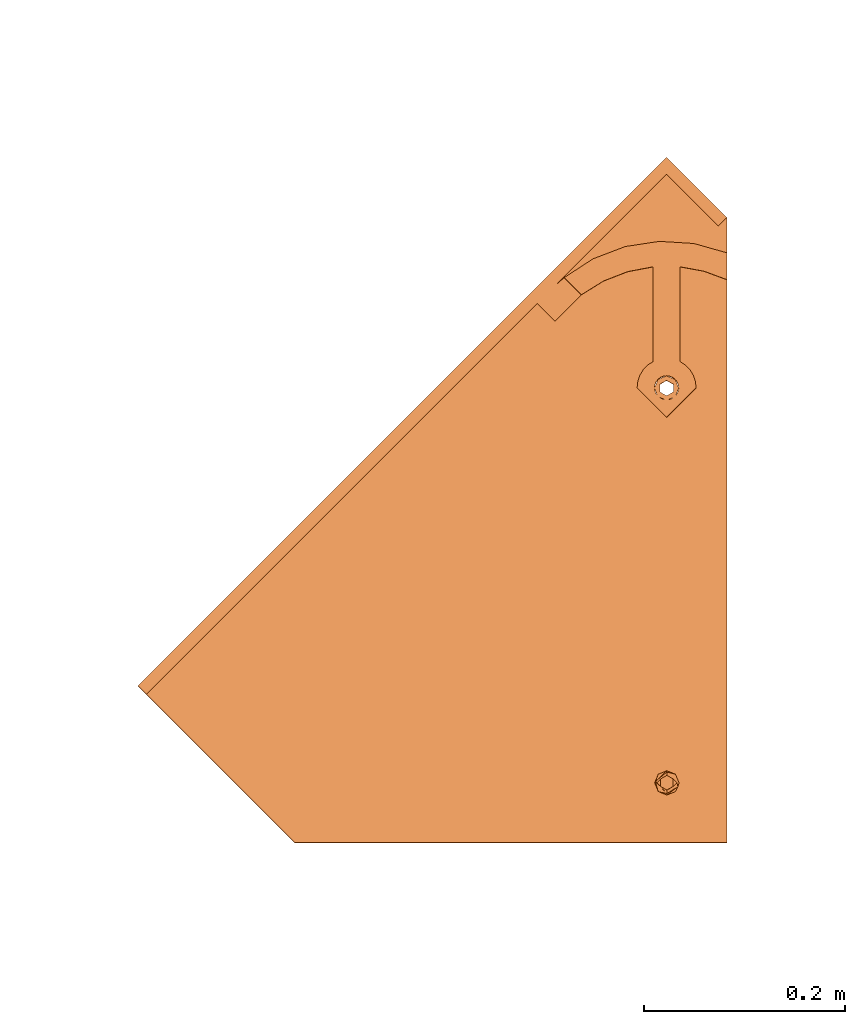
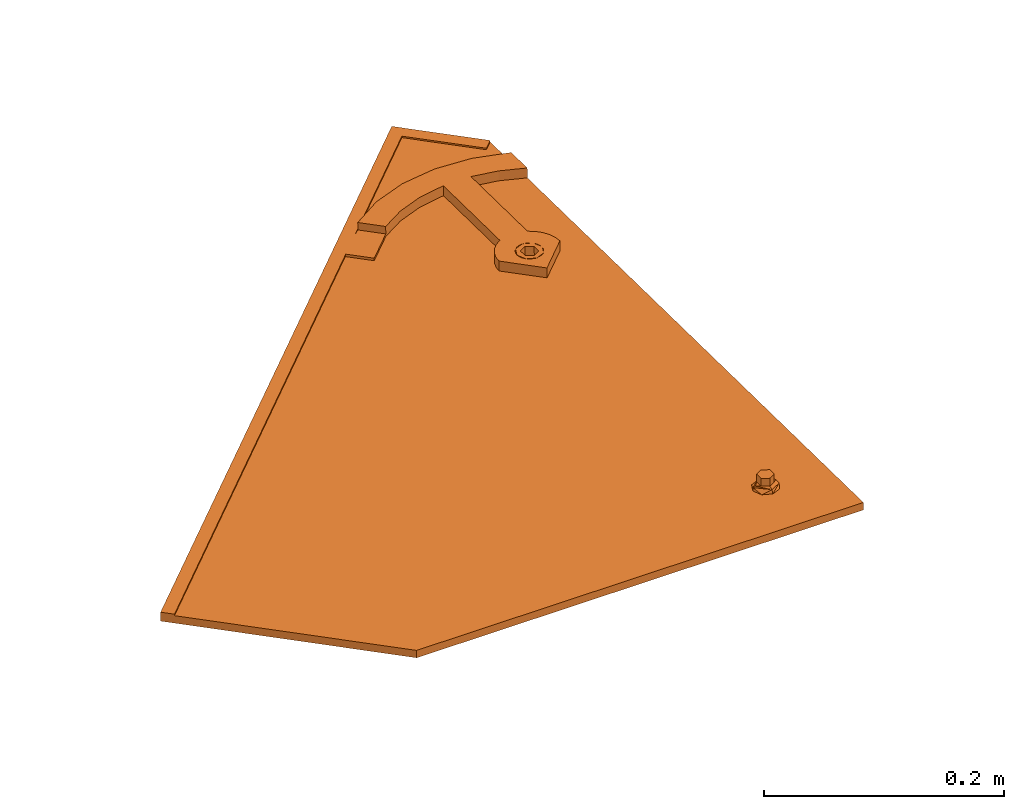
# One storey, part 123 of 133: 1 proxy.
"""IFC2X3 building model written with IfcOpenShell, lengths in millimetres."""

from ifc_helpers import new_model, entity, si_unit, converted_unit, derived_unit, direction, frame, origin, place, context, subcontext, project, spatial, faceted_brep, source, transform, mapped, material, material_list, type_object, type_shapes, element, save


model = new_model("IFC2X3")

# Units and contexts
model_context = context("Model", 3, precision=0.01, world=origin(), true_north=direction((6.12303176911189e-17, 1.0)))
body_context = subcontext(model_context, "Body", "Model", "MODEL_VIEW")
ifc_project = project(units=[si_unit("LENGTHUNIT", "METRE", prefix="MILLI"), si_unit("AREAUNIT", "SQUARE_METRE"), si_unit("VOLUMEUNIT", "CUBIC_METRE"), converted_unit("PLANEANGLEUNIT", "DEGREE", entity("IfcRatioMeasure", 0.0174532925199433), si_unit("PLANEANGLEUNIT", "RADIAN"), dimensions=[0, 0, 0, 0, 0, 0, 0]), si_unit("MASSUNIT", "GRAM", prefix="KILO"), derived_unit("MASSDENSITYUNIT", [(si_unit("MASSUNIT", "GRAM", prefix="KILO"), 1), (si_unit("LENGTHUNIT", "METRE"), -3)]), si_unit("TIMEUNIT", "SECOND"), si_unit("FREQUENCYUNIT", "HERTZ"), si_unit("THERMODYNAMICTEMPERATUREUNIT", "DEGREE_CELSIUS"), derived_unit("THERMALTRANSMITTANCEUNIT", [(si_unit("MASSUNIT", "GRAM", prefix="KILO"), 1), (si_unit("THERMODYNAMICTEMPERATUREUNIT", "KELVIN"), -1), (si_unit("TIMEUNIT", "SECOND"), -3)]), derived_unit("VOLUMETRICFLOWRATEUNIT", [(si_unit("LENGTHUNIT", "METRE"), 3), (si_unit("TIMEUNIT", "SECOND"), -1)]), si_unit("ELECTRICCURRENTUNIT", "AMPERE"), si_unit("ELECTRICVOLTAGEUNIT", "VOLT"), si_unit("POWERUNIT", "WATT"), si_unit("FORCEUNIT", "NEWTON", prefix="KILO"), si_unit("ILLUMINANCEUNIT", "LUX"), si_unit("LUMINOUSFLUXUNIT", "LUMEN"), si_unit("LUMINOUSINTENSITYUNIT", "CANDELA"), derived_unit("USERDEFINED", [(si_unit("MASSUNIT", "GRAM", prefix="KILO"), -1), (si_unit("LENGTHUNIT", "METRE"), -2), (si_unit("TIMEUNIT", "SECOND"), 3), (si_unit("LUMINOUSFLUXUNIT", "LUMEN"), 1)]), derived_unit("LINEARVELOCITYUNIT", [(si_unit("LENGTHUNIT", "METRE"), 1), (si_unit("TIMEUNIT", "SECOND"), -1)]), si_unit("PRESSUREUNIT", "PASCAL"), derived_unit("USERDEFINED", [(si_unit("LENGTHUNIT", "METRE"), -2), (si_unit("MASSUNIT", "GRAM", prefix="KILO"), 1), (si_unit("TIMEUNIT", "SECOND"), -2)])], contexts=[model_context])

# Site, building, storey
site_placement = place(None, origin())
site = spatial("IfcSite", under=ifc_project, at=site_placement, Name="Default", CompositionType="ELEMENT")
building_placement = place(site_placement, origin())
building = spatial("IfcBuilding", under=site, at=building_placement, CompositionType="ELEMENT")
storey_placement = place(building_placement, origin())
storey = spatial("IfcBuildingStorey", under=building, at=storey_placement, Name="Level 1", CompositionType="ELEMENT", Elevation=0.0)

# Proxy
ifc_material_1 = material(Name="Rubber - Sunstyle - Black")
ifc_material_2 = material(Name="Glass - Sunstyle - Tainted Black")
ifc_material_list_1 = material_list([ifc_material_1, ifc_material_2])
ifc_material_list_2 = material_list([ifc_material_1, ifc_material_2])
building_element_proxy_type = type_object("IfcBuildingElementProxyType", Name="Corner Bottom Big Right - Black", PredefinedType="NOTDEFINED", material=ifc_material_list_2)
shared_shape = source(origin(), body_context, "Body", "Brep", [
    faceted_brep([(0.270009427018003, -2.025866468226, -4.01619789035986), (-5.50419340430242, -5.35913660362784, -3.96037390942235), (-5.50419340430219, -4.99082751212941, 18.0314954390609), (0.270009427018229, -1.65755737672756, 17.9756714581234), (-5.50419340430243, -12.0256768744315, -3.84872594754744), (-5.5041934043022, -11.6573677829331, 18.1431434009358), (0.270009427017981, -15.3589470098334, -3.79290196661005), (0.270009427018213, -14.990637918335, 18.1989673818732), (6.04421225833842, -12.0256768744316, -3.84872594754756), (6.04421225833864, -11.6573677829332, 18.1431434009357), (6.04421225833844, -5.35913660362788, -3.96037390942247), (6.04421225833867, -4.99082751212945, 18.0314954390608), (-8.3336947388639, -16.9265954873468, 18.2313898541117), (0.27000942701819, -20.4898667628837, 18.2910657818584), (-11.8974656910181, -8.32409764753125, 18.0873194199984), (-8.33369473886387, 0.278400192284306, 17.9432489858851), (0.270009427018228, 3.84167146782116, 17.8835730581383), (8.87371359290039, 0.278400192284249, 17.9432489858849), (12.4374845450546, -8.32409764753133, 18.0873194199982), (8.87371359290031, -16.9265954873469, 18.2313898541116), (-11.1602134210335, -6.95050198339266, 20.4858706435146), (-9.50050407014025, -8.25322861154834, 22.3189355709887), (0.270009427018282, -0.940007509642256, 22.9603444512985), (0.27000942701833, 0.300490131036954, 22.3799978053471), (0.270009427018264, 2.4580409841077, 21.3706227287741), (-6.05323627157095, -4.59022324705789, 23.0214764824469), (-6.05323627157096, -11.8906547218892, 23.1437405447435), (0.270009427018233, -18.990246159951, 21.7298281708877), (0.270009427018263, -15.5408704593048, 23.2048725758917), (11.2551842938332, -12.0411541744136, 20.3827540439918), (10.3938597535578, -8.25726753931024, 22.077768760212), (6.59325512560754, -4.59022324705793, 23.0214764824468), (6.5932551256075, -11.8906547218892, 23.1437405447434), (-6.05323627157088, -11.7566262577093, 31.1466287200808), (0.270009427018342, -15.4068419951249, 31.207760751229), (0.270009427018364, -8.10641052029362, 31.0854966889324), (-6.05323627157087, -4.456194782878, 31.0243646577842), (6.59325512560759, -11.7566262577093, 31.1466287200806), (6.59325512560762, -4.45619478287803, 31.024364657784), (0.270009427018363, -0.805979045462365, 30.9632326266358), (0.270009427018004, -8.69240673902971, -3.90454992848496)], [[[0, 1, 2, 3]], [[1, 4, 5, 2]], [[4, 6, 7, 5]], [[6, 8, 9, 7]], [[8, 10, 11, 9]], [[10, 0, 3, 11]], [[12, 7, 13]], [[7, 12, 5]], [[14, 5, 12]], [[5, 14, 2]], [[15, 2, 14]], [[3, 2, 15]], [[15, 16, 3]], [[16, 17, 3]], [[11, 3, 17]], [[11, 17, 18]], [[9, 11, 18]], [[18, 19, 9]], [[7, 9, 19]], [[19, 13, 7]], [[15, 20, 16]], [[21, 22, 23, 24]], [[22, 21, 25]], [[20, 14, 12]], [[15, 14, 20]], [[25, 21, 26]], [[20, 24, 16]], [[12, 13, 27]], [[12, 27, 20]], [[21, 28, 26]], [[21, 27, 28]], [[20, 21, 24]], [[20, 27, 21]], [[19, 29, 13]], [[30, 23, 31]], [[30, 28, 27]], [[24, 23, 30]], [[29, 27, 13]], [[19, 18, 29]], [[29, 30, 27]], [[29, 17, 24]], [[24, 17, 16]], [[31, 32, 30]], [[23, 22, 31]], [[28, 30, 32]], [[29, 24, 30]], [[29, 18, 17]], [[33, 34, 35]], [[35, 36, 33]], [[34, 37, 35]], [[38, 35, 37]], [[35, 38, 39]], [[35, 39, 36]], [[40, 6, 4]], [[4, 1, 40]], [[1, 0, 40]], [[40, 8, 6]], [[0, 10, 40]], [[8, 40, 10]], [[22, 25, 36, 39]], [[25, 26, 33, 36]], [[26, 28, 34, 33]], [[28, 32, 37, 34]], [[32, 31, 38, 37]], [[31, 22, 39, 38]]]),
    faceted_brep([(-518.247351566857, 79.9143812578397, 14.9652572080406), (-518.247351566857, 79.9394990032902, 16.4650468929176), (-526.732038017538, 88.4241854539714, 16.3229495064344), (-526.732038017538, 88.399067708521, 14.8231598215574), (-0.00032251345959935, 614.98308737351, 6.00418773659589), (60.1037538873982, 554.895864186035, 7.01049921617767), (51.6190674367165, 546.411177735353, 7.15259660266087), (-0.000322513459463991, 598.016093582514, 6.28834266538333), (-0.000322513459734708, 615.00820511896, 7.50397742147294), (-0.000322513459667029, 598.041211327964, 7.78813235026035), (51.6190674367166, 546.436295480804, 8.65238628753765), (60.1037538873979, 554.920981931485, 8.51028890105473)], [[[0, 1, 2, 3]], [[0, 3, 4, 5, 6, 7]], [[3, 2, 8, 4]], [[2, 1, 9, 10, 11, 8]], [[1, 0, 7, 9]], [[6, 5, 11, 10]], [[4, 8, 11, 5]], [[9, 7, 6, 10]]]),
    faceted_brep([(0.0, 372.774440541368, 20.3195200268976), (0.0, 377.273809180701, 20.2441667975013), (-8.60370416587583, 376.337711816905, 20.2598440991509), (8.60370416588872, 376.337711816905, 20.2598440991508), (6.64022859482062, 381.107009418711, 20.1799702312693), (12.1674751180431, 384.940209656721, 20.1157736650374), (6.64022859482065, 388.773409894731, 20.0515770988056), (8.6037041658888, 393.542707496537, 19.9717032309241), (0.0, 392.606610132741, 19.9873805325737), (0.0, 397.105978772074, 19.9120273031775), (-8.60370416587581, 393.542707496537, 19.9717032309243), (-6.64022859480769, 388.773409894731, 20.0515770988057), (-12.1674751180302, 384.940209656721, 20.1157736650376), (-6.6402285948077, 381.107009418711, 20.1799702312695), (-6.6402282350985, 388.505487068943, 4.05382046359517), (0.0, 392.338687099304, 3.98962390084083), (-6.64022823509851, 380.839087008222, 4.18221358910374), (0.0, 377.005886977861, 4.24641015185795), (6.64022823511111, 380.839087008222, 4.1822135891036), (6.64022823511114, 388.505487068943, 4.05382046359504), (-8.603704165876, 376.069789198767, 4.26208746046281), (0.0, 372.50651792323, 4.32176338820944), (-12.1674751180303, 384.672287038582, 4.11801702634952), (-8.60370416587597, 393.274784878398, 3.97394659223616), (0.0, 396.838056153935, 3.91427066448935), (8.60370416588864, 393.274784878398, 3.97394659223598), (12.1674751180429, 384.672287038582, 4.11801702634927), (8.60370416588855, 376.069789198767, 4.26208746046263)], [[[0, 1, 2]], [[1, 0, 3]], [[3, 4, 1]], [[4, 3, 5]], [[6, 4, 5]], [[5, 7, 6]], [[7, 8, 6]], [[8, 7, 9]], [[8, 9, 10]], [[10, 11, 8]], [[12, 11, 10]], [[2, 13, 12]], [[12, 13, 11]], [[13, 2, 1]], [[8, 11, 14, 15]], [[11, 13, 16, 14]], [[13, 1, 17, 16]], [[1, 4, 18, 17]], [[4, 6, 19, 18]], [[6, 8, 15, 19]], [[20, 17, 21]], [[17, 20, 16]], [[22, 16, 20]], [[14, 16, 22]], [[23, 14, 22]], [[15, 14, 23]], [[23, 24, 15]], [[24, 25, 15]], [[19, 15, 25]], [[19, 25, 26]], [[26, 18, 19]], [[26, 27, 18]], [[17, 18, 27]], [[27, 21, 17]], [[24, 23, 10, 9]], [[10, 23, 22, 12]], [[20, 21, 0, 2]], [[20, 2, 12, 22]], [[21, 27, 3, 0]], [[3, 27, 26, 5]], [[25, 24, 9, 7]], [[25, 7, 5, 26]]]),
    faceted_brep([(-10.3923048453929, 390.78484910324, 9.75895037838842), (-8.48528137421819, 393.269782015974, 9.7173339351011), (-0.00032251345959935, 614.983087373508, 6.0041877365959), (-11.5911099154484, 387.891083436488, 9.8074137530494), (-6.0, 395.176538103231, 9.68540051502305), (-3.10582854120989, 396.37517508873, 9.6653263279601), (60.1037538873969, 554.895864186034, 7.01049921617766), (0.0, 396.784007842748, 9.65847939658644), (3.1058285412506, 396.37517508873, 9.6653263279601), (6.0, 395.176538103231, 9.68540051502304), (8.48528137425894, 393.269782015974, 9.7173339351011), (10.3923048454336, 390.784849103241, 9.75895037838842), (11.5911099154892, 387.891083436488, 9.8074137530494), (12.0, 384.785690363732, 9.8594213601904), (11.5911099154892, 381.680297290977, 9.9114289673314), (60.103753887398, -67.933460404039, 17.4413406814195), (10.3923048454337, 378.786531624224, 9.95989234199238), (6.58173564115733, -3.94243384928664, 16.369650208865), (8.48528137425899, 376.301598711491, 10.0015087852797), (5.31038666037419, -2.28581190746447, 16.3419059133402), (6.0, 374.394842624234, 10.0334422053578), (3.65353241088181, -1.01464118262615, 16.3206169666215), (3.10582854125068, 373.196205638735, 10.0535163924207), (1.72408477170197, -0.215549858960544, 16.3072341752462), (0.0, 372.787372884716, 10.0603633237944), (-0.346467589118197, 0.0570053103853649, 16.3026695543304), (-2.41701994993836, -0.215549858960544, 16.3072341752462), (-3.10582854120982, 373.196205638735, 10.0535163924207), (-4.34646758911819, -1.01464118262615, 16.3206169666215), (-6.0, 374.394842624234, 10.0334422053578), (-6.00332183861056, -2.28581190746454, 16.3419059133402), (-8.48528137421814, 376.301598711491, 10.0015087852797), (-370.355661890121, -67.9334604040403, 17.4413406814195), (-10.3923048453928, 378.786531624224, 9.95989234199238), (-526.732038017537, 88.3990677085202, 14.8231598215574), (-11.5911099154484, 381.680297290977, 9.9114289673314), (-12.0, 384.785690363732, 9.8594213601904), (-7.27467081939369, -3.94243384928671, 16.369650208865), (-8.07387419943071, -5.87161096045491, 16.4019591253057), (-8.34646758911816, -7.94187300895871, 16.4366308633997), (-8.0738741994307, -10.0121350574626, 16.4713026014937), (-7.27467081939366, -11.9413121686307, 16.5036115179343), (-6.00332183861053, -13.5979341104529, 16.5313558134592), (-4.34646758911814, -14.8691048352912, 16.5526447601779), (-2.41701994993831, -15.6681961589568, 16.5660275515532), (7.38093902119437, -5.87161096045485, 16.4019591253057), (7.65353241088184, -7.94187300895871, 16.4366308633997), (7.38093902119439, -10.0121350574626, 16.4713026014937), (6.58173564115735, -11.9413121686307, 16.5036115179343), (5.31038666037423, -13.5979341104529, 16.5313558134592), (3.65353241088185, -14.8691048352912, 16.5526447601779), (1.72408477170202, -15.6681961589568, 16.5660275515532), (-0.346467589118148, -15.9407513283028, 16.570592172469), (-370.355661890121, -68.0590491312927, 9.94239225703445), (-8.0738741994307, -10.1377237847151, 8.97235417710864), (-7.27467081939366, -12.0669008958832, 9.00466309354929), (-8.34646758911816, -8.06746173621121, 8.93768243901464), (-6.00332183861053, -13.7235228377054, 9.03240738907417), (-4.34646758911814, -14.9946935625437, 9.05369633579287), (60.103753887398, -68.0590491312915, 9.94239225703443), (-8.07387419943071, -5.99719968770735, 8.90301070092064), (-7.27467081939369, -4.06802257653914, 8.87070178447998), (-6.00332183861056, -2.41140063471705, 8.8429574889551), (-8.48528137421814, 376.176009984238, 2.50256036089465), (-10.3923048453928, 378.660942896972, 2.46094391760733), (-526.732038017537, 88.2734789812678, 7.32421139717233), (-11.5911099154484, 381.554708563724, 2.41248054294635), (-12.0, 384.66010163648, 2.36047293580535), (-11.5911099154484, 387.765494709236, 2.30846532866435), (-0.00032251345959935, 614.857498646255, -1.49476068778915), (-10.3923048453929, 390.659260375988, 2.26000195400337), (-8.48528137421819, 393.144193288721, 2.21838551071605), (-6.0, 395.050949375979, 2.18645209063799), (-3.10582854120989, 396.249586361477, 2.16637790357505), (60.1037538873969, 554.770275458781, -0.488449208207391), (0.0, 396.658419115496, 2.15953097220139), (3.1058285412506, 396.249586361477, 2.16637790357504), (6.0, 395.050949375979, 2.18645209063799), (8.48528137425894, 393.144193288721, 2.21838551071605), (10.3923048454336, 390.659260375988, 2.26000195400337), (11.5911099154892, 387.765494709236, 2.30846532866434), (12.0, 384.66010163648, 2.36047293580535), (11.5911099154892, 381.554708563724, 2.41248054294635), (-2.41701994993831, -15.7937848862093, 9.06707912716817), (-0.346467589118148, -16.0663400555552, 9.07164374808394), (1.72408477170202, -15.7937848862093, 9.06707912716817), (3.65353241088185, -14.9946935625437, 9.05369633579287), (5.31038666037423, -13.7235228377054, 9.03240738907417), (6.58173564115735, -12.0669008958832, 9.00466309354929), (7.38093902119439, -10.1377237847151, 8.97235417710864), (7.65353241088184, -8.06746173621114, 8.93768243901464), (7.38093902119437, -5.99719968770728, 8.90301070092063), (6.58173564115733, -4.06802257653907, 8.87070178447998), (10.3923048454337, 378.660942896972, 2.46094391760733), (-6.0, 374.269253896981, 2.5344937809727), (-4.34646758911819, -1.14022990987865, 8.8216685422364), (-3.10582854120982, 373.070616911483, 2.55456796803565), (-2.41701994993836, -0.341138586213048, 8.8082857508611), (0.0, 372.661784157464, 2.56141489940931), (-0.346467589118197, -0.0685834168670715, 8.80372112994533), (1.72408477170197, -0.341138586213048, 8.8082857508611), (3.10582854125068, 373.070616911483, 2.55456796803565), (3.65353241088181, -1.14022990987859, 8.8216685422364), (6.0, 374.269253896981, 2.5344937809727), (5.31038666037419, -2.41140063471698, 8.8429574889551), (8.48528137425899, 376.176009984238, 2.50256036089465)], [[[0, 1, 2]], [[3, 0, 2]], [[4, 2, 1]], [[2, 4, 5]], [[6, 2, 5]], [[7, 6, 5]], [[7, 8, 6]], [[8, 9, 6]], [[10, 6, 9]], [[6, 10, 11]], [[6, 11, 12]], [[12, 13, 6]], [[13, 14, 6]], [[6, 14, 15]], [[14, 16, 15]], [[17, 15, 16]], [[18, 17, 16]], [[17, 18, 19]], [[18, 20, 19]], [[21, 19, 20]], [[20, 22, 21]], [[23, 21, 22]], [[24, 23, 22]], [[23, 24, 25]], [[26, 25, 24]], [[24, 27, 26]], [[26, 27, 28]], [[29, 28, 27]], [[28, 29, 30]], [[29, 31, 30]], [[32, 30, 31]], [[33, 32, 31]], [[33, 34, 32]], [[33, 35, 34]], [[35, 36, 34]], [[36, 3, 34]], [[3, 2, 34]], [[30, 32, 37]], [[37, 32, 38]], [[32, 39, 38]], [[39, 32, 40]], [[40, 32, 41]], [[42, 41, 32]], [[42, 32, 43]], [[43, 32, 15]], [[15, 44, 43]], [[17, 45, 15]], [[45, 46, 15]], [[47, 15, 46]], [[47, 48, 15]], [[49, 15, 48]], [[15, 49, 50]], [[50, 51, 15]], [[51, 52, 15]], [[52, 44, 15]], [[53, 54, 55]], [[54, 53, 56]], [[53, 55, 57]], [[57, 58, 53]], [[53, 58, 59]], [[60, 56, 53]], [[61, 60, 53]], [[61, 53, 62]], [[63, 62, 53]], [[64, 63, 53]], [[65, 64, 53]], [[65, 66, 64]], [[66, 65, 67]], [[67, 65, 68]], [[65, 69, 68]], [[70, 68, 69]], [[71, 70, 69]], [[72, 71, 69]], [[69, 73, 72]], [[74, 73, 69]], [[75, 73, 74]], [[76, 75, 74]], [[77, 76, 74]], [[74, 78, 77]], [[78, 74, 79]], [[80, 79, 74]], [[80, 74, 81]], [[82, 81, 74]], [[82, 74, 59]], [[59, 58, 83]], [[84, 59, 83]], [[84, 85, 59]], [[85, 86, 59]], [[87, 59, 86]], [[59, 87, 88]], [[59, 88, 89]], [[89, 90, 59]], [[90, 91, 59]], [[91, 92, 59]], [[92, 93, 59]], [[93, 82, 59]], [[94, 62, 63]], [[94, 95, 62]], [[96, 95, 94]], [[97, 95, 96]], [[96, 98, 97]], [[99, 97, 98]], [[99, 98, 100]], [[101, 100, 98]], [[102, 100, 101]], [[103, 102, 101]], [[104, 102, 103]], [[103, 105, 104]], [[105, 92, 104]], [[105, 93, 92]], [[36, 67, 68, 3]], [[3, 68, 70, 0]], [[4, 1, 71, 72]], [[70, 71, 1, 0]], [[5, 4, 72, 73]], [[75, 7, 5, 73]], [[8, 76, 77, 9]], [[9, 77, 78, 10]], [[12, 11, 79, 80]], [[78, 79, 11, 10]], [[13, 12, 80, 81]], [[8, 7, 75, 76]], [[13, 81, 82, 14]], [[14, 82, 93, 16]], [[20, 18, 105, 103]], [[93, 105, 18, 16]], [[22, 20, 103, 101]], [[98, 24, 22, 101]], [[27, 96, 94, 29]], [[29, 94, 63, 31]], [[35, 33, 64, 66]], [[63, 64, 33, 31]], [[36, 35, 66, 67]], [[27, 24, 98, 96]], [[34, 2, 69, 65]], [[32, 34, 65, 53]], [[15, 32, 53, 59]], [[6, 15, 59, 74]], [[2, 6, 74, 69]], [[39, 56, 60, 38]], [[38, 60, 61, 37]], [[28, 30, 62, 95]], [[62, 30, 37, 61]], [[26, 28, 95, 97]], [[26, 97, 99, 25]], [[25, 99, 100, 23]], [[23, 100, 102, 21]], [[17, 19, 104, 92]], [[104, 19, 21, 102]], [[45, 17, 92, 91]], [[45, 91, 90, 46]], [[46, 90, 89, 47]], [[47, 89, 88, 48]], [[50, 49, 87, 86]], [[87, 49, 48, 88]], [[51, 50, 86, 85]], [[51, 85, 84, 52]], [[52, 84, 83, 44]], [[44, 83, 58, 43]], [[41, 42, 57, 55]], [[57, 42, 43, 58]], [[40, 41, 55, 54]], [[40, 54, 56, 39]]]),
    faceted_brep([(-114.2509690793, 483.839345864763, 10.7008696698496), (-128.946713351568, 469.147722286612, 10.9469178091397), (-111.269043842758, 451.472531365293, 11.2429332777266), (-84.944396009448, 477.793488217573, 10.8021227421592), (-102.027571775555, 494.874268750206, 10.5160621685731), (-108.279973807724, 489.512620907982, 10.6058564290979), (0.0, 355.735286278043, 10.3459433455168), (0.0, 373.122276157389, 10.0547545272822), (3.10582854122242, 373.531108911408, 10.0479075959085), (-3.10582854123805, 373.531108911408, 10.0479075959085), (6.0, 374.729745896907, 10.0278334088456), (8.48528137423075, 376.636501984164, 9.99589998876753), (29.3894280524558, 385.120593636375, 9.85381256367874), (-6.0, 374.729745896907, 10.0278334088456), (-8.4852813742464, 376.636501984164, 9.99589998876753), (-29.3894280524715, 385.120593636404, 9.85381256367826), (-10.3923048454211, 379.121434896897, 9.95428354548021), (-11.5911099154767, 382.01520056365, 9.90582017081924), (-12.0, 385.120593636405, 9.85381256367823), (-28.6795527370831, 391.540108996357, 9.74630165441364), (-11.5911099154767, 388.225986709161, 9.80180495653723), (-26.5842195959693, 397.649509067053, 9.64398440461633), (-10.3923048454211, 391.119752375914, 9.75334158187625), (-23.204650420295, 403.153659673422, 9.55180357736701), (-8.48528137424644, 393.604685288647, 9.71172513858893), (-18.704106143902, 407.786665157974, 9.47421226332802), (-6.0, 395.511441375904, 9.67979171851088), (-13.3000000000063, 411.324713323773, 9.41495875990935), (-3.10582854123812, 396.710078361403, 9.65971753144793), (0.0, 397.118911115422, 9.65287060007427), (13.2999999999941, 411.324713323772, 9.41495875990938), (-13.3000000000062, 505.643535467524, 7.83535317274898), (13.2999999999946, 505.643535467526, 7.83535317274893), (-7.21723712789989, 530.953901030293, 7.41146752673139), (-41.1626974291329, 525.784666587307, 7.49803934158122), (-38.7697427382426, 500.828655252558, 7.91599043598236), (-73.2491712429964, 513.560140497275, 7.70276973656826), (-62.9243331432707, 491.42502143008, 8.07347790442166), (-84.9431983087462, 477.752822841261, 8.30245321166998), (-102.027571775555, 494.832405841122, 8.01641269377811), (-108.279973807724, 489.470757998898, 8.10620695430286), (-114.2509690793, 483.79748295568, 8.20122019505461), (-111.269043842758, 451.430668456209, 8.74328380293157), (-128.946713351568, 469.105859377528, 8.44726833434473), (27.0541674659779, 528.834391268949, 7.44696404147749), (37.2599857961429, 501.252149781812, 7.90889795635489), (60.1037538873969, 519.521858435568, 7.60292579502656), (60.1037538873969, 492.795625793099, 8.05052369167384), (3.10582854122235, 396.710078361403, 9.65971753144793), (6.0, 395.511441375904, 9.67979171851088), (18.7041061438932, 407.786665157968, 9.47421226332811), (8.48528137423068, 393.604685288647, 9.71172513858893), (23.2046504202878, 403.153659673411, 9.55180357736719), (10.3923048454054, 391.119752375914, 9.75334158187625), (26.5842195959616, 397.649509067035, 9.64398440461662), (11.591109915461, 388.225986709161, 9.80180495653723), (28.6795527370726, 391.540108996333, 9.74630165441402), (12.0, 385.120593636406, 9.85381256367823), (11.591109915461, 382.01520056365, 9.90582017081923), (10.3923048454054, 379.121434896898, 9.95428354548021), (-38.7697427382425, 500.996106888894, 17.9145883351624), (-41.1626974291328, 525.952118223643, 17.4966372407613), (-73.2491712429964, 513.727592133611, 17.7013676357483), (-62.9243331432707, 491.592473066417, 18.0720758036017), (-13.3000000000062, 505.810987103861, 17.833951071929), (-7.21723712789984, 531.121352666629, 17.4100654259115), (13.2999999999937, 505.810987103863, 17.833951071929), (-13.3000000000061, 411.49216496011, 19.4135566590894), (13.2999999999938, 411.492164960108, 19.4135566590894), (0.0, 397.286362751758, 19.6514684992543), (-3.10582854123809, 396.877529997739, 19.658315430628), (-6.0, 395.678893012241, 19.6783896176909), (-18.7041061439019, 407.954116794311, 19.4728101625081), (-8.48528137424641, 393.772136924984, 19.710323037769), (-23.2046504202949, 403.321111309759, 19.5504014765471), (-10.3923048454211, 391.28720401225, 19.7519394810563), (-26.5842195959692, 397.816960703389, 19.6425823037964), (-11.5911099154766, 388.393438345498, 19.8004028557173), (-28.6795527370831, 391.707560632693, 19.7448995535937), (-12.0, 385.288045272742, 19.8524104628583), (-29.3894280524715, 385.28804527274, 19.8524104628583), (-11.5911099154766, 382.182652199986, 19.9044180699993), (-10.3923048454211, 379.288886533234, 19.9528814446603), (-8.48528137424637, 376.803953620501, 19.9944978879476), (0.0, 355.902737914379, 20.3445412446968), (-6.0, 374.897197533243, 20.0264313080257), (-3.10582854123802, 373.698560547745, 20.0465054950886), (0.0, 373.289727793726, 20.0533524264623), (3.10582854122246, 373.698560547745, 20.0465054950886), (6.0, 374.897197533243, 20.0264313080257), (8.48528137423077, 376.803953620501, 19.9944978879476), (29.3894280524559, 385.288045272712, 19.8524104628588), (10.3923048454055, 379.288886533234, 19.9528814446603), (11.591109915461, 382.182652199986, 19.9044180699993), (12.0, 385.288045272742, 19.8524104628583), (28.6795527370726, 391.70756063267, 19.7448995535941), (11.591109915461, 388.393438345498, 19.8004028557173), (26.5842195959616, 397.816960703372, 19.6425823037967), (10.3923048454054, 391.28720401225, 19.7519394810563), (23.2046504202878, 403.321111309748, 19.5504014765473), (8.48528137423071, 393.772136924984, 19.710323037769), (18.7041061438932, 407.954116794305, 19.4728101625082), (6.0, 395.678893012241, 19.6783896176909), (3.10582854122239, 396.877529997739, 19.658315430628), (27.0541674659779, 529.001842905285, 17.4455619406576), (37.259985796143, 501.419601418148, 17.907495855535), (60.1037538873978, 519.689310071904, 17.6015236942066), (60.1037538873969, 492.963077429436, 18.0491215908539), (-84.9443960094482, 477.919076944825, 18.3010711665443), (-102.027571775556, 494.999857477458, 18.0150105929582)], [[[0, 1, 2, 3, 4, 5]], [[6, 7, 8]], [[7, 6, 9]], [[6, 8, 10]], [[10, 11, 6]], [[6, 11, 12]], [[13, 9, 6]], [[14, 13, 6]], [[14, 6, 15]], [[15, 16, 14]], [[16, 15, 17]], [[17, 15, 18]], [[19, 18, 15]], [[20, 18, 19]], [[19, 21, 20]], [[20, 21, 22]], [[23, 22, 21]], [[23, 24, 22]], [[23, 25, 24]], [[25, 26, 24]], [[26, 25, 27]], [[28, 26, 27]], [[27, 29, 28]], [[30, 29, 27]], [[30, 27, 31]], [[30, 31, 32]], [[31, 33, 32]], [[33, 31, 34]], [[35, 34, 31]], [[34, 35, 36]], [[37, 36, 35]], [[37, 38, 36]], [[36, 38, 39]], [[40, 39, 38]], [[40, 38, 41]], [[38, 42, 41]], [[42, 43, 41]], [[32, 33, 44]], [[44, 45, 32]], [[45, 44, 46]], [[46, 47, 45]], [[48, 29, 30]], [[30, 49, 48]], [[49, 30, 50]], [[50, 51, 49]], [[50, 52, 51]], [[51, 52, 53]], [[54, 53, 52]], [[54, 55, 53]], [[56, 55, 54]], [[57, 55, 56]], [[12, 57, 56]], [[58, 57, 12]], [[12, 11, 59]], [[58, 12, 59]], [[1, 0, 41, 43]], [[2, 1, 43, 42]], [[4, 39, 40, 5]], [[40, 41, 0, 5]], [[3, 2, 42, 38]], [[60, 61, 62]], [[63, 60, 62]], [[64, 61, 60]], [[61, 64, 65]], [[66, 65, 64]], [[66, 64, 67]], [[66, 67, 68]], [[68, 67, 69]], [[67, 70, 69]], [[71, 70, 67]], [[71, 67, 72]], [[72, 73, 71]], [[73, 72, 74]], [[73, 74, 75]], [[74, 76, 75]], [[75, 76, 77]], [[78, 77, 76]], [[78, 79, 77]], [[78, 80, 79]], [[79, 80, 81]], [[82, 81, 80]], [[83, 82, 80]], [[83, 80, 84]], [[85, 83, 84]], [[86, 85, 84]], [[87, 86, 84]], [[87, 84, 88]], [[89, 88, 84]], [[89, 84, 90]], [[91, 90, 84]], [[92, 90, 91]], [[91, 93, 92]], [[93, 91, 94]], [[95, 94, 91]], [[95, 96, 94]], [[95, 97, 96]], [[96, 97, 98]], [[99, 98, 97]], [[98, 99, 100]], [[100, 99, 101]], [[101, 68, 102]], [[100, 101, 102]], [[102, 68, 103]], [[103, 68, 69]], [[66, 104, 65]], [[105, 104, 66]], [[105, 106, 104]], [[106, 105, 107]], [[108, 63, 62]], [[62, 109, 108]], [[66, 68, 30, 32]], [[95, 91, 12, 56]], [[97, 95, 56, 54]], [[54, 52, 99, 97]], [[101, 99, 52, 50]], [[68, 101, 50, 30]], [[91, 84, 6, 12]], [[84, 80, 15, 6]], [[72, 67, 27, 25]], [[74, 72, 25, 23]], [[23, 21, 76, 74]], [[78, 76, 21, 19]], [[80, 78, 19, 15]], [[67, 64, 31, 27]], [[104, 106, 46, 44]], [[65, 104, 44, 33]], [[33, 34, 61, 65]], [[62, 61, 34, 36]], [[4, 109, 62, 36, 39]], [[79, 18, 20, 77]], [[77, 20, 22, 75]], [[71, 73, 24, 26]], [[22, 24, 73, 75]], [[70, 71, 26, 28]], [[29, 69, 70, 28]], [[103, 48, 49, 102]], [[102, 49, 51, 100]], [[96, 98, 53, 55]], [[51, 53, 98, 100]], [[94, 96, 55, 57]], [[103, 69, 29, 48]], [[94, 57, 58, 93]], [[93, 58, 59, 92]], [[89, 90, 11, 10]], [[59, 11, 90, 92]], [[88, 89, 10, 8]], [[7, 87, 88, 8]], [[86, 9, 13, 85]], [[85, 13, 14, 83]], [[81, 82, 16, 17]], [[14, 16, 82, 83]], [[79, 81, 17, 18]], [[86, 87, 7, 9]], [[108, 109, 4, 3]], [[32, 45, 105, 66]], [[47, 107, 105, 45]], [[3, 37, 63, 108]], [[3, 38, 37]], [[35, 31, 64, 60]], [[37, 35, 60, 63]], [[106, 107, 47, 46]]]),
])
type_shapes(building_element_proxy_type, [shared_shape])
proxy_placement = place(storey_placement, frame((6796.20934583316, 8399.10883232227, 0.0)))
element("IfcBuildingElementProxy", 1, at=proxy_placement, inside=storey, type_object=building_element_proxy_type, material=ifc_material_list_1, Name="Roofing_Panels_SunStyle_Tile_Corner-Bottom-Big-Right:Corner Bottom Big Right - Black", ObjectType="Roofing_Panels_SunStyle_Tile_Corner-Bottom-Big-Right:Corner Bottom Big Right - Black", context=body_context, shape_type="MappedRepresentation", body=[
    mapped(shared_shape, transform((0.0, 0.0, 0.0), scale=1.0)),
])

save(model, "model.ifc")
